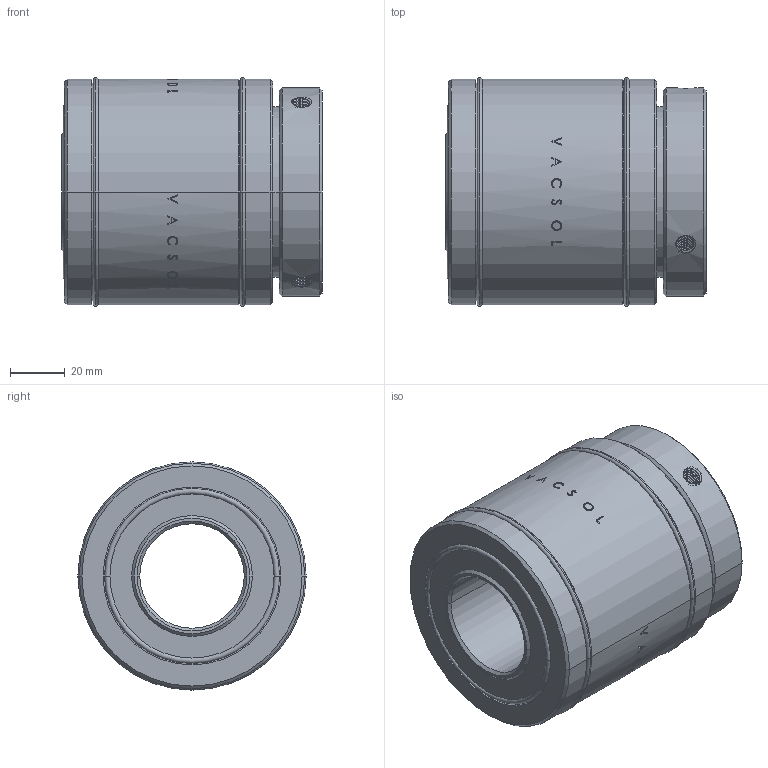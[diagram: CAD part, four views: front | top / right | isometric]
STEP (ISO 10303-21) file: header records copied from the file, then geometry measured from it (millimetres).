
FILE_DESCRIPTION (( 'STEP AP203' ), '1' );
FILE_NAME ('P65030.STEP', '2010-10-11T10:58:38', ( 'user' ), ( '' ), 'SwSTEP 2.0', 'SolidWorks 2007', '' );
FILE_SCHEMA (( 'CONFIG_CONTROL_DESIGN' ));
Length unit declared in the file: millimetre
Products named in the file (1): P65030
Bounding box: 95.34 x 83.5 x 83.5 mm (x, y, z)
Volume: 374590.9 mm3; surface area: 60862.4 mm2
Topology: 4 solids, 4 shells, 438 faces, 1179 edges, 778 vertices
Faces by surface type: cylinder 208, bspline 183, plane 21, cone 14, torus 12
Entity records: 32021 total; most frequent: CARTESIAN_POINT 23440, ORIENTED_EDGE 2358, EDGE_CURVE 1179, DIRECTION 919, VERTEX_POINT 778, B_SPLINE_CURVE_WITH_KNOTS 562, EDGE_LOOP 481, FACE_OUTER_BOUND 438
